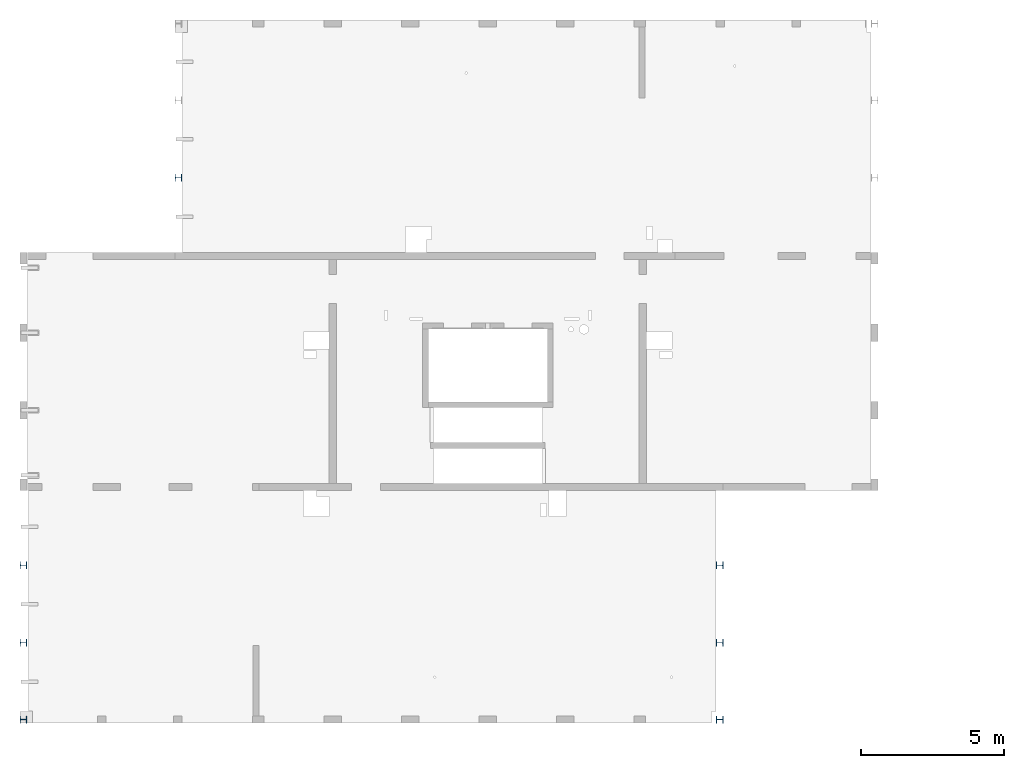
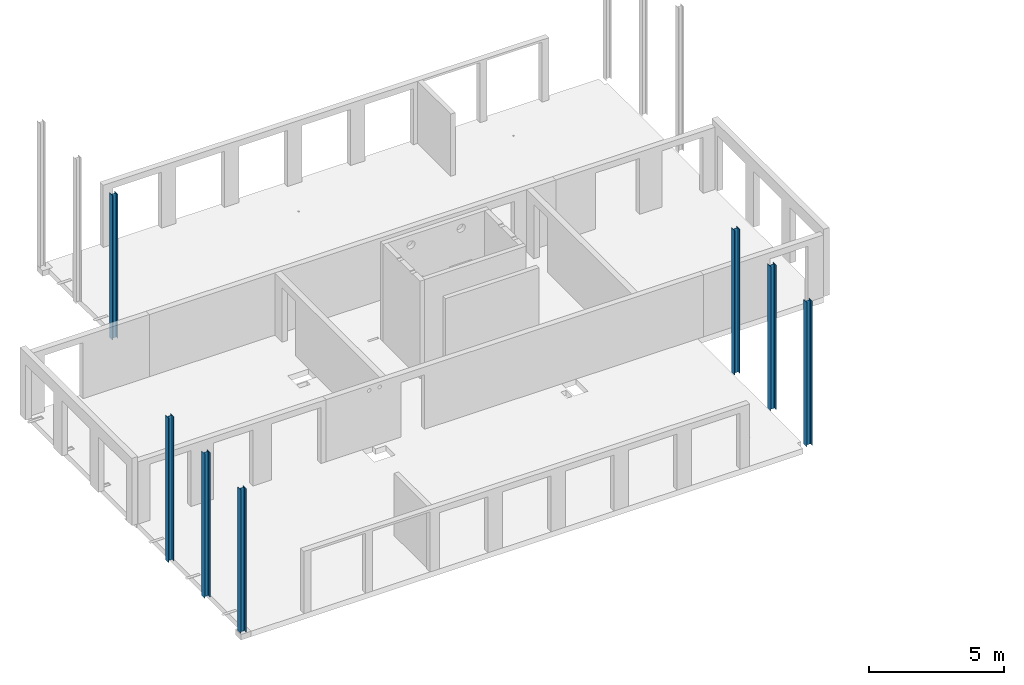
# One storey, part 1 of 10: 7 columns.
"""IFC2X3 building model written with IfcOpenShell, lengths in millimetres."""

from ifc_helpers import new_model, entity, si_unit, converted_unit, derived_unit, direction, frame, frame_2d, origin, place, context, subcontext, project, spatial, polyline, circle_curve, parameter, trimmed, segment, composite_curve, outline, extrude, source, transform, mapped, material, type_object, type_shapes, element, save


model = new_model("IFC2X3")

# Units and contexts
model_context = context("Model", 3, precision=0.01, world=origin(), true_north=direction((6.12303176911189e-17, 1.0)))
body_context = subcontext(model_context, "Body", "Model", "MODEL_VIEW")
ifc_project = project(units=[si_unit("LENGTHUNIT", "METRE", prefix="MILLI"), si_unit("AREAUNIT", "SQUARE_METRE"), si_unit("VOLUMEUNIT", "CUBIC_METRE"), converted_unit("PLANEANGLEUNIT", "DEGREE", entity("IfcRatioMeasure", 0.0174532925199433), si_unit("PLANEANGLEUNIT", "RADIAN"), dimensions=[0, 0, 0, 0, 0, 0, 0]), si_unit("MASSUNIT", "GRAM", prefix="KILO"), derived_unit("MASSDENSITYUNIT", [(si_unit("MASSUNIT", "GRAM", prefix="KILO"), 1), (si_unit("LENGTHUNIT", "METRE"), -3)]), si_unit("TIMEUNIT", "SECOND"), si_unit("FREQUENCYUNIT", "HERTZ"), si_unit("THERMODYNAMICTEMPERATUREUNIT", "DEGREE_CELSIUS"), derived_unit("THERMALTRANSMITTANCEUNIT", [(si_unit("MASSUNIT", "GRAM", prefix="KILO"), 1), (si_unit("THERMODYNAMICTEMPERATUREUNIT", "KELVIN"), -1), (si_unit("TIMEUNIT", "SECOND"), -3)]), derived_unit("VOLUMETRICFLOWRATEUNIT", [(si_unit("LENGTHUNIT", "METRE"), 3), (si_unit("TIMEUNIT", "SECOND"), -1)]), si_unit("ELECTRICCURRENTUNIT", "AMPERE"), si_unit("ELECTRICVOLTAGEUNIT", "VOLT"), si_unit("POWERUNIT", "WATT"), si_unit("FORCEUNIT", "NEWTON", prefix="KILO"), si_unit("ILLUMINANCEUNIT", "LUX"), si_unit("LUMINOUSFLUXUNIT", "LUMEN"), si_unit("LUMINOUSINTENSITYUNIT", "CANDELA"), derived_unit("USERDEFINED", [(si_unit("MASSUNIT", "GRAM", prefix="KILO"), -1), (si_unit("LENGTHUNIT", "METRE"), -2), (si_unit("TIMEUNIT", "SECOND"), 3), (si_unit("LUMINOUSFLUXUNIT", "LUMEN"), 1)]), derived_unit("LINEARVELOCITYUNIT", [(si_unit("LENGTHUNIT", "METRE"), 1), (si_unit("TIMEUNIT", "SECOND"), -1)]), si_unit("PRESSUREUNIT", "PASCAL"), derived_unit("USERDEFINED", [(si_unit("LENGTHUNIT", "METRE"), -2), (si_unit("MASSUNIT", "GRAM", prefix="KILO"), 1), (si_unit("TIMEUNIT", "SECOND"), -2)])], contexts=[model_context])

# Site, building, storey
site_placement = place(None, origin())
site = spatial("IfcSite", under=ifc_project, at=site_placement, Name="Default", CompositionType="ELEMENT")
building_placement = place(site_placement, origin())
building = spatial("IfcBuilding", under=site, at=building_placement, Name="niet gebruiken", CompositionType="ELEMENT")
storey_placement = place(building_placement, frame((0.0, 0.0, 63090.0)))
storey = spatial("IfcBuildingStorey", under=building, at=storey_placement, Name="21 eenentwintigste verdieping", CompositionType="ELEMENT", Elevation=63090.0)

# Columns
ifc_material = material(Name="NLRS_h2_staal")
column_type_1 = type_object("IfcColumnType", Name="kolom HEA 240", PredefinedType="COLUMN", material=ifc_material)
shared_shape_1 = source(origin(), body_context, "Body", "SweptSolid", [
    extrude(outline(composite_curve([segment(polyline([(103.0, -120.0), (115.0, -120.0)]), True, "CONTINUOUS"), segment(polyline([(115.0, -120.0), (115.0, 120.0)]), True, "CONTINUOUS"), segment(polyline([(115.0, 120.0), (103.0, 120.0)]), True, "CONTINUOUS"), segment(polyline([(103.0, 120.0), (103.0, 24.7499999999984)]), True, "CONTINUOUS"), segment(trimmed(circle_curve(frame_2d((82.0, 24.7499999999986), x_axis=(1.0, 0.0)), 21.0), [parameter(270.0)], [parameter(0.0)], True, "PARAMETER"), False, "CONTINUOUS"), segment(polyline([(82.0, 3.74999999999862), (-82.0, 3.74999999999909)]), True, "CONTINUOUS"), segment(trimmed(circle_curve(frame_2d((-82.0, 24.7499999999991), x_axis=(0.0, -1.0)), 21.0), [parameter(270.0)], [parameter(0.0)], True, "PARAMETER"), False, "CONTINUOUS"), segment(polyline([(-103.0, 24.7499999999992), (-103.0, 120.0)]), True, "CONTINUOUS"), segment(polyline([(-103.0, 120.0), (-115.0, 120.0)]), True, "CONTINUOUS"), segment(polyline([(-115.0, 120.0), (-115.0, -120.0)]), True, "CONTINUOUS"), segment(polyline([(-115.0, -120.0), (-103.0, -120.0)]), True, "CONTINUOUS"), segment(polyline([(-103.0, -120.0), (-103.0, -24.7500000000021)]), True, "CONTINUOUS"), segment(trimmed(circle_curve(frame_2d((-82.0, -24.7500000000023), x_axis=(-1.0, 0.0)), 21.0), [parameter(270.0)], [parameter(0.0)], True, "PARAMETER"), False, "CONTINUOUS"), segment(polyline([(-82.0, -3.75000000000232), (82.0, -3.75000000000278)]), True, "CONTINUOUS"), segment(trimmed(circle_curve(frame_2d((82.0, -24.7500000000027), x_axis=(0.0, 1.0)), 21.0), [parameter(270.0)], [parameter(0.0)], True, "PARAMETER"), False, "CONTINUOUS"), segment(polyline([(103.0, -24.7500000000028), (103.0, -120.0)]), True, "CONTINUOUS")], self_intersect=False)), frame((0.0, 0.0, 63000.0), z_axis=(0.0, 0.0, 1.0), x_axis=(0.0, -1.0, 0.0)), (0.0, 0.0, 1.0), 6539.99999999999),
])
type_shapes(column_type_1, [shared_shape_1])
for number, where, z_axis, x_axis, name in (
    (1, (32420.0, 47756.0, -63090.0), (0.0, 0.0, 1.0), (0.0, -1.0, 0.0), "NLRS_28.11_SCO_TLB_stalen kolom HEA_gen:kolom HEA 240"),
    (2, (27020.0, 34256.0, -63090.0), (0.0, 0.0, 1.0), (0.0, -1.0, 0.0), "NLRS_28.11_SCO_TLB_stalen kolom HEA_gen:kolom HEA 240"),
    (3, (27020.0, 31556.0, -63090.0), (0.0, 0.0, 1.0), (0.0, -1.0, 0.0), "NLRS_28.11_SCO_TLB_stalen kolom HEA_gen:kolom HEA 240"),
    (4, (51280.0, 28881.0, -63090.0), (0.0, 0.0, 1.0), (0.0, -1.0, 0.0), "NLRS_28.11_SCO_TLB_stalen kolom HEA_gen:kolom HEA 240"),
    (5, (51280.0, 31556.0, -63090.0), (0.0, 0.0, 1.0), (0.0, -1.0, 0.0), "NLRS_28.11_SCO_TLB_stalen kolom HEA_gen:kolom HEA 240"),
    (6, (51280.0, 34256.0, -63090.0), (0.0, 0.0, 1.0), (0.0, -1.0, 0.0), "NLRS_28.11_SCO_TLB_stalen kolom HEA_gen:kolom HEA 240"),
):
    element("IfcColumn", number, at=place(storey_placement, frame(where, z_axis=z_axis, x_axis=x_axis)), inside=storey, type_object=column_type_1, material=ifc_material, Name=name, ObjectType="kolom HEA 240", context=body_context, shape_type="MappedRepresentation", body=[
        mapped(shared_shape_1, transform((0.0, 0.0, 0.0), scale=1.0)),
    ])
column_type_2 = type_object("IfcColumnType", Name="kolom HEA 240", PredefinedType="COLUMN", material=ifc_material)
shared_shape_2 = source(origin(), body_context, "Body", "SweptSolid", [
    extrude(outline(composite_curve([segment(polyline([(103.0, -120.0), (115.0, -120.0)]), True, "CONTINUOUS"), segment(polyline([(115.0, -120.0), (115.0, 120.0)]), True, "CONTINUOUS"), segment(polyline([(115.0, 120.0), (103.0, 120.0)]), True, "CONTINUOUS"), segment(polyline([(103.0, 120.0), (103.0, 24.7499999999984)]), True, "CONTINUOUS"), segment(trimmed(circle_curve(frame_2d((82.0, 24.7499999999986), x_axis=(1.0, 0.0)), 21.0), [parameter(270.0)], [parameter(0.0)], True, "PARAMETER"), False, "CONTINUOUS"), segment(polyline([(82.0, 3.74999999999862), (-82.0, 3.74999999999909)]), True, "CONTINUOUS"), segment(trimmed(circle_curve(frame_2d((-82.0, 24.7499999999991), x_axis=(0.0, -1.0)), 21.0), [parameter(270.0)], [parameter(0.0)], True, "PARAMETER"), False, "CONTINUOUS"), segment(polyline([(-103.0, 24.7499999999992), (-103.0, 120.0)]), True, "CONTINUOUS"), segment(polyline([(-103.0, 120.0), (-115.0, 120.0)]), True, "CONTINUOUS"), segment(polyline([(-115.0, 120.0), (-115.0, -120.0)]), True, "CONTINUOUS"), segment(polyline([(-115.0, -120.0), (-103.0, -120.0)]), True, "CONTINUOUS"), segment(polyline([(-103.0, -120.0), (-103.0, -24.7500000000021)]), True, "CONTINUOUS"), segment(trimmed(circle_curve(frame_2d((-82.0, -24.7500000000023), x_axis=(-1.0, 0.0)), 21.0), [parameter(270.0)], [parameter(0.0)], True, "PARAMETER"), False, "CONTINUOUS"), segment(polyline([(-82.0, -3.75000000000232), (82.0, -3.75000000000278)]), True, "CONTINUOUS"), segment(trimmed(circle_curve(frame_2d((82.0, -24.7500000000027), x_axis=(0.0, 1.0)), 21.0), [parameter(270.0)], [parameter(0.0)], True, "PARAMETER"), False, "CONTINUOUS"), segment(polyline([(103.0, -24.7500000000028), (103.0, -120.0)]), True, "CONTINUOUS")], self_intersect=False)), frame((0.0, 0.0, 63030.0), z_axis=(0.0, 0.0, 1.0), x_axis=(0.0, -1.0, 0.0)), (0.0, 0.0, 1.0), 6510.0),
])
type_shapes(column_type_2, [shared_shape_2])
column_placement = place(storey_placement, frame((27020.0, 28881.0, -63090.0), z_axis=(0.0, 0.0, 1.0), x_axis=(0.0, -1.0, 0.0)))
element("IfcColumn", 7, at=column_placement, inside=storey, type_object=column_type_2, material=ifc_material, Name="NLRS_28.11_SCO_TLB_stalen kolom HEA_gen:kolom HEA 240", ObjectType="kolom HEA 240", context=body_context, shape_type="MappedRepresentation", body=[
    mapped(shared_shape_2, transform((0.0, 0.0, 0.0), scale=1.0)),
])

save(model, "model.ifc")
